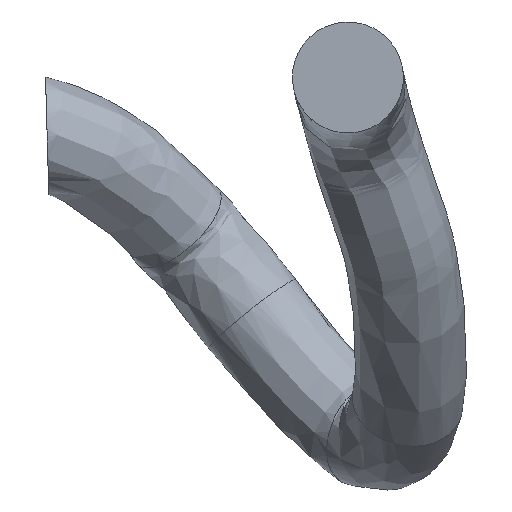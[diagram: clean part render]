
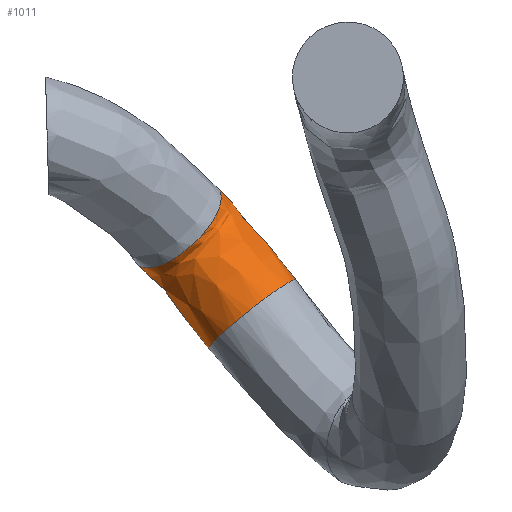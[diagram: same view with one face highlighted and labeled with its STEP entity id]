
A CAD part, front view. The second image highlights one B-rep face of the part: STEP entity #1011.
In plain terms, the highlighted free-form (B-spline) face has degree [3, 3] with [7, 5] control points.
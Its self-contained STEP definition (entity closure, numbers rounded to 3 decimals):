
#11 = CARTESIAN_POINT ( 'NONE',  ( 2992.099, 362.907, 1845.277 ) ) ;
#45 = CARTESIAN_POINT ( 'NONE',  ( 3021.33, 279.31, 1845.929 ) ) ;
#51 = CARTESIAN_POINT ( 'NONE',  ( 2962.477, 449.221, 1848.904 ) ) ;
#57 = CARTESIAN_POINT ( 'NONE',  ( 2862.303, 418.254, 1832.875 ) ) ;
#76 = CARTESIAN_POINT ( 'NONE',  ( 3021.33, 279.31, 1845.929 ) ) ;
#136 = EDGE_CURVE ( 'NONE', #325, #325, #651, .T. ) ;
#140 = CARTESIAN_POINT ( 'NONE',  ( 2956.004, 256.086, 1796.754 ) ) ;
#146 = CARTESIAN_POINT ( 'NONE',  ( 2942.156, 337.516, 1776.692 ) ) ;
#148 = CARTESIAN_POINT ( 'NONE',  ( 2891.536, 336.181, 1837.057 ) ) ;
#156 = CARTESIAN_POINT ( 'NONE',  ( 2905.295, 257.852, 1858.625 ) ) ;
#165 = CARTESIAN_POINT ( 'NONE',  ( 2970.257, 281.697, 1908.941 ) ) ;
#213 = CARTESIAN_POINT ( 'NONE',  ( 3007.482, 360.74, 1825.867 ) ) ;
#249 = CARTESIAN_POINT ( 'NONE',  ( 2902.524, 431.805, 1909.069 ) ) ;
#251 = CARTESIAN_POINT ( 'NONE',  ( 2985.217, 284.292, 1891.661 ) ) ;
#270 = EDGE_LOOP ( 'NONE', ( #992 ) ) ;
#287 =( BOUNDED_CURVE ( )  B_SPLINE_CURVE ( 3, ( #1045, #251, #601, #148, #958, #703, #683 ),
 .UNSPECIFIED., .T., .T. ) 
 B_SPLINE_CURVE_WITH_KNOTS ( ( 4, 3, 4 ),
 ( 0., 0.5, 1. ),
 .UNSPECIFIED. ) 
 CURVE ( )  GEOMETRIC_REPRESENTATION_ITEM ( )  RATIONAL_B_SPLINE_CURVE ( ( 1., 0.333, 0.333, 1., 0.333, 0.333, 1. ) ) 
 REPRESENTATION_ITEM ( '' )  );
#314 = CARTESIAN_POINT ( 'NONE',  ( 2943.871, 358.049, 1900.365 ) ) ;
#325 = VERTEX_POINT ( 'NONE', #513 ) ;
#327 = CARTESIAN_POINT ( 'NONE',  ( 2993.634, 442.17, 1805.805 ) ) ;
#415 = CARTESIAN_POINT ( 'NONE',  ( 2976.577, 444.574, 1827.328 ) ) ;
#432 = CARTESIAN_POINT ( 'NONE',  ( 2850.189, 409.938, 1845.761 ) ) ;
#493 = CARTESIAN_POINT ( 'NONE',  ( 2911.166, 421.361, 1778.26 ) ) ;
#498 = CARTESIAN_POINT ( 'NONE',  ( 2985.217, 284.292, 1891.661 ) ) ;
#504 = CARTESIAN_POINT ( 'NONE',  ( 2943.871, 358.049, 1900.365 ) ) ;
#509 = CARTESIAN_POINT ( 'NONE',  ( 2916.257, 441.232, 1894.461 ) ) ;
#513 = CARTESIAN_POINT ( 'NONE',  ( 3007.482, 360.74, 1825.867 ) ) ;
#522 = EDGE_CURVE ( 'NONE', #1131, #1131, #287, .T. ) ;
#532 = CARTESIAN_POINT ( 'NONE',  ( 2952.703, 364.108, 1890.97 ) ) ;
#557 = CARTESIAN_POINT ( 'NONE',  ( 2942.156, 337.516, 1776.692 ) ) ;
#576 =( BOUNDED_SURFACE ( )  B_SPLINE_SURFACE ( 3, 3, ( 
 ( #504, #1116, #1030, #769, #681 ),
 ( #498, #1122, #165, #863, #76 ),
 ( #857, #1127, #156, #956, #140 ),
 ( #587, #581, #945, #1043, #146 ),
 ( #432, #57, #786, #493, #851 ),
 ( #249, #509, #51, #415, #327 ),
 ( #710, #532, #1064, #11, #979 ) ),
 .UNSPECIFIED., .T., .F., .T. ) 
 B_SPLINE_SURFACE_WITH_KNOTS ( ( 4, 3, 4 ),
 ( 4, 1, 4 ),
 ( 0., 0.5, 1. ),
 ( 0.186, 0.243, 0.301 ),
 .UNSPECIFIED. ) 
 GEOMETRIC_REPRESENTATION_ITEM ( )  RATIONAL_B_SPLINE_SURFACE ( (
 ( 1., 1., 1., 1., 1.),
 ( 0.333, 0.333, 0.333, 0.333, 0.333),
 ( 0.333, 0.333, 0.333, 0.333, 0.333),
 ( 1., 1., 1., 1., 1.),
 ( 0.333, 0.333, 0.333, 0.333, 0.333),
 ( 0.333, 0.333, 0.333, 0.333, 0.333),
 ( 1., 1., 1., 1., 1.) ) ) 
 REPRESENTATION_ITEM ( '' )  SURFACE ( )  );
#581 = CARTESIAN_POINT ( 'NONE',  ( 2898.75, 341.13, 1829.384 ) ) ;
#587 = CARTESIAN_POINT ( 'NONE',  ( 2891.536, 336.181, 1837.057 ) ) ;
#601 = CARTESIAN_POINT ( 'NONE',  ( 2932.883, 262.425, 1828.353 ) ) ;
#631 = CARTESIAN_POINT ( 'NONE',  ( 3007.482, 360.74, 1825.867 ) ) ;
#647 = CARTESIAN_POINT ( 'NONE',  ( 2956.004, 256.086, 1796.754 ) ) ;
#651 =( BOUNDED_CURVE ( )  B_SPLINE_CURVE ( 3, ( #631, #987, #671, #557, #647, #45, #213 ),
 .UNSPECIFIED., .T., .T. ) 
 B_SPLINE_CURVE_WITH_KNOTS ( ( 4, 3, 4 ),
 ( 0., 0.5, 1. ),
 .UNSPECIFIED. ) 
 CURVE ( )  GEOMETRIC_REPRESENTATION_ITEM ( )  RATIONAL_B_SPLINE_CURVE ( ( 1., 0.333, 0.333, 1., 0.333, 0.333, 1. ) ) 
 REPRESENTATION_ITEM ( '' )  );
#671 = CARTESIAN_POINT ( 'NONE',  ( 2928.308, 418.946, 1756.63 ) ) ;
#681 = CARTESIAN_POINT ( 'NONE',  ( 3007.482, 360.74, 1825.867 ) ) ;
#683 = CARTESIAN_POINT ( 'NONE',  ( 2943.871, 358.049, 1900.365 ) ) ;
#703 = CARTESIAN_POINT ( 'NONE',  ( 2902.524, 431.805, 1909.069 ) ) ;
#710 = CARTESIAN_POINT ( 'NONE',  ( 2943.871, 358.049, 1900.365 ) ) ;
#733 = EDGE_LOOP ( 'NONE', ( #1067 ) ) ;
#769 = CARTESIAN_POINT ( 'NONE',  ( 2992.099, 362.907, 1845.277 ) ) ;
#786 = CARTESIAN_POINT ( 'NONE',  ( 2897.515, 425.375, 1798.588 ) ) ;
#851 = CARTESIAN_POINT ( 'NONE',  ( 2928.308, 418.946, 1756.63 ) ) ;
#857 = CARTESIAN_POINT ( 'NONE',  ( 2932.883, 262.425, 1828.353 ) ) ;
#863 = CARTESIAN_POINT ( 'NONE',  ( 3007.622, 281.241, 1863.227 ) ) ;
#876 = FACE_OUTER_BOUND ( 'NONE', #733, .T. ) ;
#945 = CARTESIAN_POINT ( 'NONE',  ( 2901.405, 341.614, 1828.606 ) ) ;
#950 = FACE_OUTER_BOUND ( 'NONE', #270, .T. ) ;
#956 = CARTESIAN_POINT ( 'NONE',  ( 2942.211, 258.028, 1814.159 ) ) ;
#958 = CARTESIAN_POINT ( 'NONE',  ( 2850.189, 409.938, 1845.761 ) ) ;
#979 = CARTESIAN_POINT ( 'NONE',  ( 3007.482, 360.74, 1825.867 ) ) ;
#987 = CARTESIAN_POINT ( 'NONE',  ( 2993.634, 442.17, 1805.805 ) ) ;
#992 = ORIENTED_EDGE ( 'NONE', *, *, #522, .T. ) ;
#1011 = ADVANCED_FACE ( 'NONE', ( #950, #876 ), #576, .T. ) ;
#1030 = CARTESIAN_POINT ( 'NONE',  ( 2966.367, 365.459, 1878.922 ) ) ;
#1043 = CARTESIAN_POINT ( 'NONE',  ( 2926.688, 339.695, 1796.209 ) ) ;
#1045 = CARTESIAN_POINT ( 'NONE',  ( 2943.871, 358.049, 1900.365 ) ) ;
#1064 = CARTESIAN_POINT ( 'NONE',  ( 2966.367, 365.459, 1878.922 ) ) ;
#1067 = ORIENTED_EDGE ( 'NONE', *, *, #136, .T. ) ;
#1116 = CARTESIAN_POINT ( 'NONE',  ( 2952.703, 364.108, 1890.97 ) ) ;
#1122 = CARTESIAN_POINT ( 'NONE',  ( 2989.15, 286.984, 1887.479 ) ) ;
#1127 = CARTESIAN_POINT ( 'NONE',  ( 2935.196, 264.006, 1825.893 ) ) ;
#1131 = VERTEX_POINT ( 'NONE', #314 ) ;
